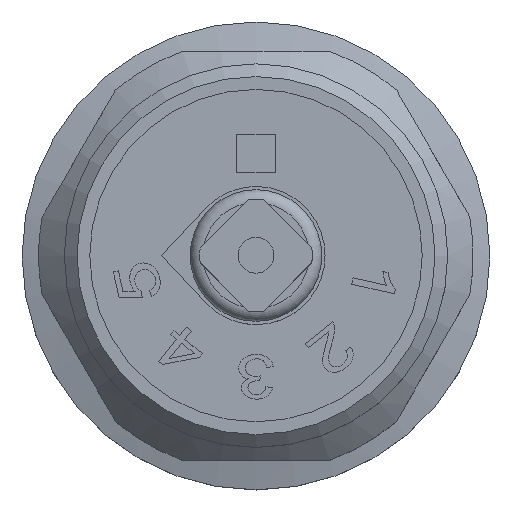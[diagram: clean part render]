
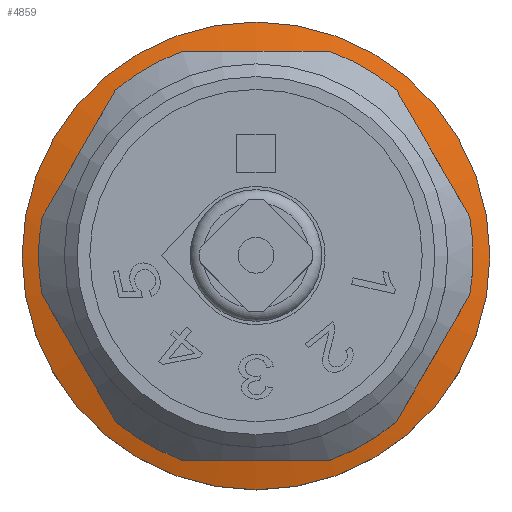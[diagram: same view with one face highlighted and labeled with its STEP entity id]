
A CAD part, top view. The second image highlights one B-rep face of the part: STEP entity #4859.
In plain terms, the highlighted conical face has half-angle 75 degrees and reference radius 18.3 mm.
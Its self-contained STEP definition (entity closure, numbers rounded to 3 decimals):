
#4238=CARTESIAN_POINT('',(-17.,-0.,5.348));
#4239=VERTEX_POINT('',#4238);
#4257=CARTESIAN_POINT('',(-16.729,3.025,5.348));
#4258=VERTEX_POINT('',#4257);
#4265=CARTESIAN_POINT('',(-0.,0.,5.348));
#4266=DIRECTION('',(0.,0.,-1.));
#4267=DIRECTION('',(-1.,0.,0.));
#4268=AXIS2_PLACEMENT_3D('',#4265,#4266,#4267);
#4269=CIRCLE('',#4268,17.);
#4270=EDGE_CURVE('',#4239,#4258,#4269,.T.);
#4280=CARTESIAN_POINT('',(-5.745,-16.,5.348));
#4281=VERTEX_POINT('',#4280);
#4282=CARTESIAN_POINT('',(-10.984,-12.975,5.348));
#4283=VERTEX_POINT('',#4282);
#4284=CARTESIAN_POINT('',(-0.,0.,5.348));
#4285=DIRECTION('',(0.,0.,-1.));
#4286=DIRECTION('',(-1.,0.,0.));
#4287=AXIS2_PLACEMENT_3D('',#4284,#4285,#4286);
#4288=CIRCLE('',#4287,17.);
#4289=EDGE_CURVE('',#4281,#4283,#4288,.T.);
#4322=CARTESIAN_POINT('',(10.984,-12.975,5.348));
#4323=VERTEX_POINT('',#4322);
#4324=CARTESIAN_POINT('',(5.745,-16.,5.348));
#4325=VERTEX_POINT('',#4324);
#4326=CARTESIAN_POINT('',(-0.,0.,5.348));
#4327=DIRECTION('',(0.,0.,-1.));
#4328=DIRECTION('',(-1.,0.,0.));
#4329=AXIS2_PLACEMENT_3D('',#4326,#4327,#4328);
#4330=CIRCLE('',#4329,17.);
#4331=EDGE_CURVE('',#4323,#4325,#4330,.T.);
#4364=CARTESIAN_POINT('',(16.729,3.025,5.348));
#4365=VERTEX_POINT('',#4364);
#4366=CARTESIAN_POINT('',(16.729,-3.025,5.348));
#4367=VERTEX_POINT('',#4366);
#4368=CARTESIAN_POINT('',(-0.,0.,5.348));
#4369=DIRECTION('',(0.,0.,-1.));
#4370=DIRECTION('',(-1.,0.,0.));
#4371=AXIS2_PLACEMENT_3D('',#4368,#4369,#4370);
#4372=CIRCLE('',#4371,17.);
#4373=EDGE_CURVE('',#4365,#4367,#4372,.T.);
#4406=CARTESIAN_POINT('',(5.745,16.,5.348));
#4407=VERTEX_POINT('',#4406);
#4408=CARTESIAN_POINT('',(10.984,12.975,5.348));
#4409=VERTEX_POINT('',#4408);
#4410=CARTESIAN_POINT('',(-0.,0.,5.348));
#4411=DIRECTION('',(0.,0.,-1.));
#4412=DIRECTION('',(-1.,0.,0.));
#4413=AXIS2_PLACEMENT_3D('',#4410,#4411,#4412);
#4414=CIRCLE('',#4413,17.);
#4415=EDGE_CURVE('',#4407,#4409,#4414,.T.);
#4448=CARTESIAN_POINT('',(-10.984,12.975,5.348));
#4449=VERTEX_POINT('',#4448);
#4450=CARTESIAN_POINT('',(-5.745,16.,5.348));
#4451=VERTEX_POINT('',#4450);
#4452=CARTESIAN_POINT('',(-0.,0.,5.348));
#4453=DIRECTION('',(0.,0.,-1.));
#4454=DIRECTION('',(-1.,0.,0.));
#4455=AXIS2_PLACEMENT_3D('',#4452,#4453,#4454);
#4456=CIRCLE('',#4455,17.);
#4457=EDGE_CURVE('',#4449,#4451,#4456,.T.);
#4664=CARTESIAN_POINT('',(-16.729,-3.025,5.348));
#4665=VERTEX_POINT('',#4664);
#4666=CARTESIAN_POINT('',(-10.984,-12.975,5.348));
#4667=CARTESIAN_POINT('',(-11.942,-11.317,5.522));
#4668=CARTESIAN_POINT('',(-12.899,-9.658,5.616));
#4669=CARTESIAN_POINT('',(-13.856,-8.,5.616));
#4670=CARTESIAN_POINT('',(-14.814,-6.342,5.616));
#4671=CARTESIAN_POINT('',(-15.771,-4.683,5.522));
#4672=CARTESIAN_POINT('',(-16.729,-3.025,5.348));
#4673=B_SPLINE_CURVE_WITH_KNOTS('',3,(#4666,#4667,#4668,#4669,#4670,#4671,#4672),.UNSPECIFIED.,.F.,.F.,(4,3,4),(0.,0.006,0.011),.UNSPECIFIED.);
#4674=EDGE_CURVE('',#4283,#4665,#4673,.T.);
#4692=CARTESIAN_POINT('',(5.745,-16.,5.348));
#4693=CARTESIAN_POINT('',(3.841,-16.,5.521));
#4694=CARTESIAN_POINT('',(1.933,-16.,5.616));
#4695=CARTESIAN_POINT('',(0.018,-16.,5.616));
#4696=CARTESIAN_POINT('',(-1.896,-16.,5.617));
#4697=CARTESIAN_POINT('',(-3.818,-16.,5.523));
#4698=CARTESIAN_POINT('',(-5.745,-16.,5.348));
#4699=B_SPLINE_CURVE_WITH_KNOTS('',3,(#4692,#4693,#4694,#4695,#4696,#4697,#4698),.UNSPECIFIED.,.F.,.F.,(4,3,4),(0.012,0.017,0.023),.UNSPECIFIED.);
#4700=EDGE_CURVE('',#4325,#4281,#4699,.T.);
#4713=CARTESIAN_POINT('',(16.729,-3.025,5.348));
#4714=CARTESIAN_POINT('',(15.771,-4.683,5.522));
#4715=CARTESIAN_POINT('',(14.814,-6.342,5.616));
#4716=CARTESIAN_POINT('',(13.856,-8.,5.616));
#4717=CARTESIAN_POINT('',(12.899,-9.658,5.616));
#4718=CARTESIAN_POINT('',(11.942,-11.317,5.522));
#4719=CARTESIAN_POINT('',(10.984,-12.975,5.348));
#4720=B_SPLINE_CURVE_WITH_KNOTS('',3,(#4713,#4714,#4715,#4716,#4717,#4718,#4719),.UNSPECIFIED.,.F.,.F.,(4,3,4),(0.,0.006,0.011),.UNSPECIFIED.);
#4721=EDGE_CURVE('',#4367,#4323,#4720,.T.);
#4734=CARTESIAN_POINT('',(10.984,12.975,5.348));
#4735=CARTESIAN_POINT('',(11.942,11.317,5.522));
#4736=CARTESIAN_POINT('',(12.899,9.658,5.616));
#4737=CARTESIAN_POINT('',(13.856,8.,5.616));
#4738=CARTESIAN_POINT('',(14.814,6.342,5.616));
#4739=CARTESIAN_POINT('',(15.771,4.683,5.522));
#4740=CARTESIAN_POINT('',(16.729,3.025,5.348));
#4741=B_SPLINE_CURVE_WITH_KNOTS('',3,(#4734,#4735,#4736,#4737,#4738,#4739,#4740),.UNSPECIFIED.,.F.,.F.,(4,3,4),(0.,0.006,0.011),.UNSPECIFIED.);
#4742=EDGE_CURVE('',#4409,#4365,#4741,.T.);
#4755=CARTESIAN_POINT('',(-5.745,16.,5.348));
#4756=CARTESIAN_POINT('',(-3.841,16.,5.521));
#4757=CARTESIAN_POINT('',(-1.933,16.,5.616));
#4758=CARTESIAN_POINT('',(-0.018,16.,5.616));
#4759=CARTESIAN_POINT('',(1.896,16.,5.617));
#4760=CARTESIAN_POINT('',(3.818,16.,5.523));
#4761=CARTESIAN_POINT('',(5.745,16.,5.348));
#4762=B_SPLINE_CURVE_WITH_KNOTS('',3,(#4755,#4756,#4757,#4758,#4759,#4760,#4761),.UNSPECIFIED.,.F.,.F.,(4,3,4),(0.012,0.017,0.023),.UNSPECIFIED.);
#4763=EDGE_CURVE('',#4451,#4407,#4762,.T.);
#4776=CARTESIAN_POINT('',(-16.729,3.025,5.348));
#4777=CARTESIAN_POINT('',(-15.771,4.683,5.522));
#4778=CARTESIAN_POINT('',(-14.814,6.342,5.616));
#4779=CARTESIAN_POINT('',(-13.856,8.,5.616));
#4780=CARTESIAN_POINT('',(-12.899,9.658,5.616));
#4781=CARTESIAN_POINT('',(-11.942,11.317,5.522));
#4782=CARTESIAN_POINT('',(-10.984,12.975,5.348));
#4783=B_SPLINE_CURVE_WITH_KNOTS('',3,(#4776,#4777,#4778,#4779,#4780,#4781,#4782),.UNSPECIFIED.,.F.,.F.,(4,3,4),(0.,0.006,0.011),.UNSPECIFIED.);
#4784=EDGE_CURVE('',#4258,#4449,#4783,.T.);
#4799=CARTESIAN_POINT('',(-18.3,-0.,5.));
#4800=VERTEX_POINT('',#4799);
#4807=CARTESIAN_POINT('',(-0.,0.,5.));
#4808=DIRECTION('',(0.,0.,-1.));
#4809=DIRECTION('',(-1.,0.,0.));
#4810=AXIS2_PLACEMENT_3D('',#4807,#4808,#4809);
#4811=CIRCLE('',#4810,18.3);
#4812=EDGE_CURVE('',#4800,#4800,#4811,.T.);
#4825=CARTESIAN_POINT('',(-0.,0.,5.));
#4826=DIRECTION('',(0.,0.,-1.));
#4827=DIRECTION('',(-1.,0.,0.));
#4828=AXIS2_PLACEMENT_3D('',#4825,#4826,#4827);
#4829=CONICAL_SURFACE('',#4828,18.3,75.);
#4830=CARTESIAN_POINT('',(-18.3,0.,5.));
#4831=DIRECTION('',(0.966,-0.,0.259));
#4832=VECTOR('',#4831,1.346);
#4833=LINE('',#4830,#4832);
#4834=EDGE_CURVE('',#4800,#4239,#4833,.T.);
#4835=ORIENTED_EDGE('',*,*,#4834,.T.);
#4836=ORIENTED_EDGE('',*,*,#4270,.T.);
#4837=ORIENTED_EDGE('',*,*,#4784,.T.);
#4838=ORIENTED_EDGE('',*,*,#4457,.T.);
#4839=ORIENTED_EDGE('',*,*,#4763,.T.);
#4840=ORIENTED_EDGE('',*,*,#4415,.T.);
#4841=ORIENTED_EDGE('',*,*,#4742,.T.);
#4842=ORIENTED_EDGE('',*,*,#4373,.T.);
#4843=ORIENTED_EDGE('',*,*,#4721,.T.);
#4844=ORIENTED_EDGE('',*,*,#4331,.T.);
#4845=ORIENTED_EDGE('',*,*,#4700,.T.);
#4846=ORIENTED_EDGE('',*,*,#4289,.T.);
#4847=ORIENTED_EDGE('',*,*,#4674,.T.);
#4848=CARTESIAN_POINT('',(-0.,0.,5.348));
#4849=DIRECTION('',(0.,0.,-1.));
#4850=DIRECTION('',(-1.,0.,0.));
#4851=AXIS2_PLACEMENT_3D('',#4848,#4849,#4850);
#4852=CIRCLE('',#4851,17.);
#4853=EDGE_CURVE('',#4665,#4239,#4852,.T.);
#4854=ORIENTED_EDGE('',*,*,#4853,.T.);
#4855=ORIENTED_EDGE('',*,*,#4834,.F.);
#4856=ORIENTED_EDGE('',*,*,#4812,.F.);
#4857=EDGE_LOOP('',(#4835,#4836,#4837,#4838,#4839,#4840,#4841,#4842,#4843,#4844,#4845,#4846,#4847,#4854,#4855,#4856));
#4858=FACE_BOUND('',#4857,.T.);
#4859=ADVANCED_FACE('',(#4858),#4829,.T.);
